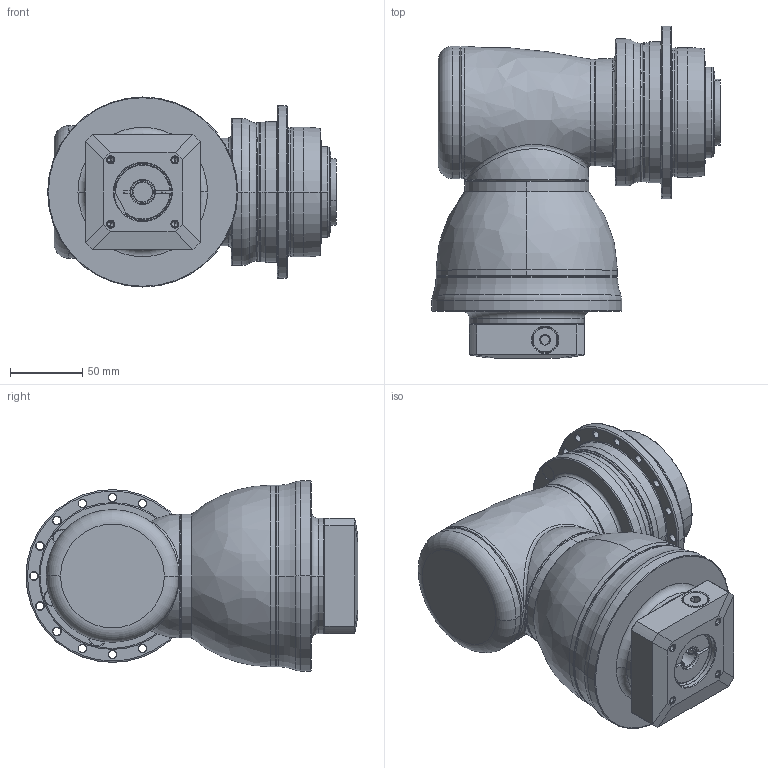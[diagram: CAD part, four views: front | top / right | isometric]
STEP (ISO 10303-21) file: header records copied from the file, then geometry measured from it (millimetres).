
FILE_DESCRIPTION((''),'2;1');
FILE_NAME('APK090_2ST_SBG_14-P0409320201_ASM','2018-10-30T',('d01226'),(''),'PRO/ENGINEER BY PARAMETRIC TECHNOLOGY CORPORATION, 2015240','PRO/ENGINEER BY PARAMETRIC TECHNOLOGY CORPORATION, 2015240','');
FILE_SCHEMA(('CONFIG_CONTROL_DESIGN'));
Length unit declared in the file: millimetre
Products named in the file (13): P0278301003; P0359301103; P1211300001; P1802310011; P1018400002; P1365400001; P1007401001; P1318410601; P0503300006; P0912406201; P0409320201; 21711412017; APK090_2ST_SBG_14-P0409320201_ASM
Assembly tree (12 placements, depth 2):
  APK090_2ST_SBG_14-P0409320201_ASM
    P0278301003
    P0359301103
    P1211300001
    P1802310011
    P1018400002
    P1365400001
    P1007401001
    P1318410601
    P0503300006
    P0912406201
    P0409320201
    21711412017
Bounding box: 200.4 x 230.5 x 132 mm (x, y, z)
Volume: 2448199.3 mm3; surface area: 296949.3 mm2
Topology: 13 solids, 34 shells, 761 faces, 1746 edges, 1049 vertices
Faces by surface type: cylinder 302, cone 185, plane 152, torus 84, bspline 37, sphere 1
Entity records: 28469 total; most frequent: CARTESIAN_POINT 10682, DIRECTION 4096, ORIENTED_EDGE 3334, AXIS2_PLACEMENT_3D 1769, EDGE_CURVE 1710, VERTEX_POINT 1049, CIRCLE 1010, EDGE_LOOP 883
